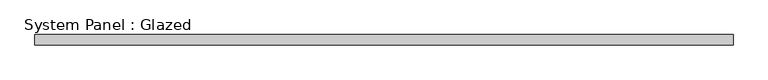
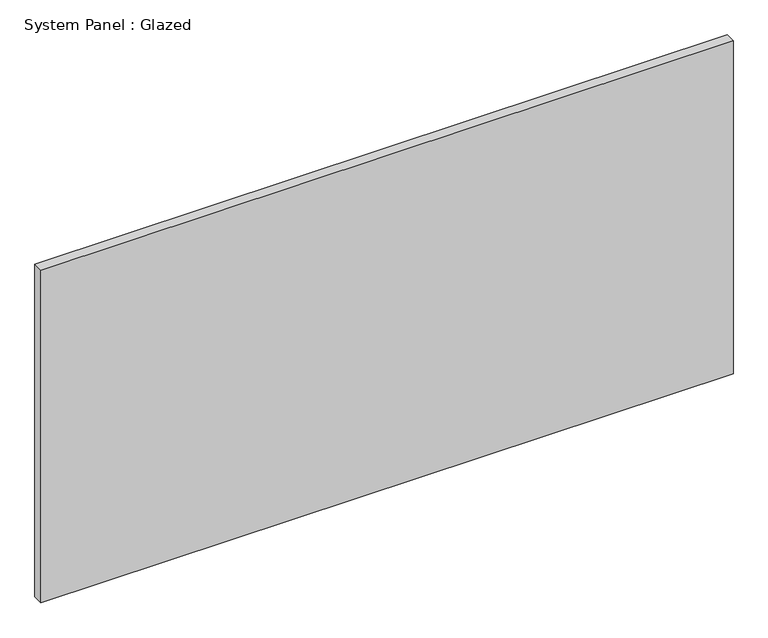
"""IFC4 building model written with IfcOpenShell, lengths in millimetres: plate geometry, System Panel : Glazed."""

import ifcopenshell
import ifcopenshell.guid

model = None  # the IFC model being written
_history = None  # IfcOwnerHistory: only IFC2X3 demands one
_inside = {}  # id of a spatial element -> (the spatial element, [elements in it])
_under = {}  # id of a project, library or spatial element -> (it, [spatial elements below it])
_declared = {}  # id of a project -> (the project, [libraries it declares])
_typed = {}  # id of a type object -> (the type object, [elements of that type])
_made_of = {}  # id of a material, layer set ... -> (it, [elements and type objects made of it])


def new_model(schema):
    """Start an empty IFC model of exactly this schema.

    Asked for "IFC4X3", IfcOpenShell would pick the latest addendum, in which some entities
    have other attributes; the version numbers below select the first issue.
    IFC2X3 requires an IfcOwnerHistory on every rooted entity: one is made here for all.
    """
    global model, _history
    if schema == "IFC4X3":
        model = ifcopenshell.file(schema_version=(4, 3, 0, 0))
    else:
        model = ifcopenshell.file(schema=schema)
    _inside.clear()
    _under.clear()
    _declared.clear()
    _typed.clear()
    _made_of.clear()
    _history = None
    if model.schema == "IFC2X3":
        org = make("IfcOrganization", Name="unknown")
        user = make(
            "IfcPersonAndOrganization",
            ThePerson=make("IfcPerson", FamilyName="unknown"),
            TheOrganization=org,
        )
        app = make(
            "IfcApplication",
            ApplicationDeveloper=org,
            Version="unknown",
            ApplicationFullName="unknown",
            ApplicationIdentifier="unknown",
        )
        _history = make(
            "IfcOwnerHistory",
            OwningUser=user,
            OwningApplication=app,
            ChangeAction="ADDED",
            CreationDate=0,
        )
    return model


def make(cls, **values):
    """One entity of the class cls with the attributes given. An attribute that is None is left unset."""
    return model.create_entity(
        cls, **{name: value for name, value in values.items() if value is not None}
    )


def rooted(cls, **values):
    """An entity with a GlobalId (a new one), such as an element, a storey or a relation."""
    return make(cls, GlobalId=ifcopenshell.guid.new(), OwnerHistory=_history, **values)


def si_unit(unit_type, name, prefix=None):
    """IfcSIUnit, for example si_unit("LENGTHUNIT", "METRE", prefix="MILLI")."""
    return make("IfcSIUnit", UnitType=unit_type, Prefix=prefix, Name=name)


def assignment(units):
    """IfcUnitAssignment: the units of a project."""
    return None if units is None else make("IfcUnitAssignment", Units=units)


def point(xyz):
    """IfcCartesianPoint."""
    return None if xyz is None else make("IfcCartesianPoint", Coordinates=xyz)


def direction(xyz):
    """IfcDirection."""
    return None if xyz is None else make("IfcDirection", DirectionRatios=xyz)


def frame(location, z_axis=None, x_axis=None):
    """IfcAxis2Placement3D, a coordinate frame: its origin and axes. An axis left out is left unset."""
    return make(
        "IfcAxis2Placement3D",
        Location=point(location),
        Axis=direction(z_axis),
        RefDirection=direction(x_axis),
    )


def origin():
    """The frame at (0, 0, 0) with its axes left unset."""
    return frame((0.0, 0.0, 0.0))


def origin_with_axes():
    """The frame at (0, 0, 0) with the z axis (0, 0, 1) and the x axis (1, 0, 0) written out."""
    return frame((0.0, 0.0, 0.0), z_axis=(0.0, 0.0, 1.0), x_axis=(1.0, 0.0, 0.0))


def place(relative_to, where):
    """IfcLocalPlacement: puts the frame where relative to a parent placement (None: the world)."""
    return make(
        "IfcLocalPlacement", PlacementRelTo=relative_to, RelativePlacement=where
    )


def context(
    kind, dimensions, precision=None, world=None, true_north=None, identifier=None
):
    """IfcGeometricRepresentationContext, for example the 3D "Model" context."""
    return make(
        "IfcGeometricRepresentationContext",
        ContextIdentifier=identifier,
        ContextType=kind,
        CoordinateSpaceDimension=dimensions,
        Precision=precision,
        WorldCoordinateSystem=world,
        TrueNorth=true_north,
    )


def project(units=None, contexts=None):
    """IfcProject with its units and contexts."""
    return rooted(
        "IfcProject",
        Name="project",
        RepresentationContexts=contexts,
        UnitsInContext=assignment(units),
    )


def spatial(cls, under=None, at=None, **own):
    """A site, building, storey or space (cls), placed at a placement, below another one or the project."""
    s = rooted(cls, ObjectPlacement=at, **own)
    if under is not None:
        _under.setdefault(under.id(), (under, []))[1].append(s)
    return s


def polyline(points):
    """IfcPolyline through the points."""
    return make("IfcPolyline", Points=[point(p) for p in points])


def outline(outer, holes=None, kind="AREA"):
    """IfcArbitraryClosedProfileDef: a profile drawn as a closed curve; with holes, ...WithVoids."""
    if holes is None:
        return make("IfcArbitraryClosedProfileDef", ProfileType=kind, OuterCurve=outer)
    return make(
        "IfcArbitraryProfileDefWithVoids",
        ProfileType=kind,
        OuterCurve=outer,
        InnerCurves=holes,
    )


def extrude(swept, where, along, depth):
    """IfcExtrudedAreaSolid: the profile swept, set in the frame where, extruded along a direction by depth."""
    return make(
        "IfcExtrudedAreaSolid",
        SweptArea=swept,
        Position=where,
        ExtrudedDirection=direction(along),
        Depth=depth,
    )


def shape(context_of_items, identifier, shape_type, items):
    """IfcShapeRepresentation: the items that make up one representation, for example the "Body"."""
    return make(
        "IfcShapeRepresentation",
        ContextOfItems=context_of_items,
        RepresentationIdentifier=identifier,
        RepresentationType=shape_type,
        Items=items,
    )


def source(mapping_origin, context_of_items, identifier, shape_type, items):
    """IfcRepresentationMap: a shape defined once, which mapped items show again and again."""
    return make(
        "IfcRepresentationMap",
        MappingOrigin=mapping_origin,
        MappedRepresentation=shape(context_of_items, identifier, shape_type, items),
    )


def transform(
    local_origin,
    x_axis=None,
    y_axis=None,
    z_axis=None,
    scale=None,
    scale2=None,
    scale3=None,
    uniform=True,
):
    """IfcCartesianTransformationOperator3D, or its non-uniform kind. x_axis, y_axis, z_axis: its Axis1, 2, 3."""
    if uniform:
        return make(
            "IfcCartesianTransformationOperator3D",
            Axis1=direction(x_axis),
            Axis2=direction(y_axis),
            LocalOrigin=point(local_origin),
            Scale=scale,
            Axis3=direction(z_axis),
        )
    return make(
        "IfcCartesianTransformationOperator3DnonUniform",
        Axis1=direction(x_axis),
        Axis2=direction(y_axis),
        LocalOrigin=point(local_origin),
        Scale=scale,
        Axis3=direction(z_axis),
        Scale2=scale2,
        Scale3=scale3,
    )


def mapped(mapping_source, mapping_target):
    """IfcMappedItem: shows the shape of a source again, moved by a transform."""
    return make(
        "IfcMappedItem", MappingSource=mapping_source, MappingTarget=mapping_target
    )


def made_of(thing, what):
    """Note that an element or type object is made of a material, layer set ...; save() writes the relation."""
    if what is not None:
        _made_of.setdefault(what.id(), (what, []))[1].append(thing)
    return thing


def element(
    cls,
    number,
    at=None,
    inside=None,
    cuts=None,
    type_object=None,
    material=None,
    context=None,
    identifier="Body",
    shape_type=None,
    held_by="IfcProductDefinitionShape",
    body=None,
    shapes=None,
    **own,
):
    """One element of the class cls, such as IfcWall. Its Tag is "e" and its number.

    at: its placement. inside: the storey or other place that contains it. cuts: it is an
    opening in that element (IfcRelVoidsElement). A single representation is given by context,
    identifier, shape_type and body (its items); several are given by shapes. held_by: the class
    of the entity that holds the representations. save() writes the other relations.
    """
    e = rooted(cls, Tag="e%d" % number, ObjectPlacement=at, **own)
    if body is not None:
        shapes = [shape(context, identifier, shape_type, body)]
    if shapes is not None:
        e.Representation = make(held_by, Representations=shapes)
    if inside is not None:
        _inside.setdefault(inside.id(), (inside, []))[1].append(e)
    if cuts is not None:
        rooted(
            "IfcRelVoidsElement", RelatingBuildingElement=cuts, RelatedOpeningElement=e
        )
    if type_object is not None:
        _typed.setdefault(type_object.id(), (type_object, []))[1].append(e)
    return made_of(e, material)


def aggregate(whole, parts):
    """IfcRelAggregates: a whole, such as a stair, and the parts it consists of."""
    return rooted("IfcRelAggregates", RelatingObject=whole, RelatedObjects=parts)


def save(model, path):
    """Write the relations noted so far, then the file.

    IfcRelAggregates (storeys below a building ...), IfcRelContainedInSpatialStructure (elements
    in a storey), IfcRelDefinesByType, IfcRelAssociatesMaterial and IfcRelDeclares: one each for
    every whole, place, type object, material and project.
    """
    for whole, parts in _under.values():
        aggregate(whole, parts)
    for where, things in _inside.values():
        rooted(
            "IfcRelContainedInSpatialStructure",
            RelatedElements=things,
            RelatingStructure=where,
        )
    for kind, things in _typed.values():
        rooted("IfcRelDefinesByType", RelatedObjects=things, RelatingType=kind)
    for what, things in _made_of.values():
        rooted("IfcRelAssociatesMaterial", RelatedObjects=things, RelatingMaterial=what)
    for by, libraries in _declared.values():
        rooted("IfcRelDeclares", RelatingContext=by, RelatedDefinitions=libraries)
    model.write(path)


def system_panel_glazed_069e6351(model_context):
    return source(origin(), model_context, "Body", "SweptSolid", [
        extrude(outline(polyline([(855.4684602, 19.05), (-855.4684602, 19.05), (-855.4684602, 44.45), (855.4684602, 44.45), (855.4684602, 19.05)])), origin_with_axes(), (0.0, 0.0, 1.0), 869.5973025),
    ])


if __name__ == "__main__":
    model = new_model("IFC4")
    model_context = context("Model", 3, world=origin())
    ifc_project = project(units=[si_unit("LENGTHUNIT", "METRE", prefix="MILLI")], contexts=[model_context])
    site = spatial("IfcSite", under=ifc_project)
    building = spatial("IfcBuilding", under=site)
    placement = place(None, origin())
    system_panel_glazed_shape = system_panel_glazed_069e6351(model_context)
    element("IfcPlate", 1, ObjectType="System Panel : Glazed", at=placement, inside=building, context=model_context, shape_type="MappedRepresentation", body=[
        mapped(system_panel_glazed_shape, transform((0.0, 0.0, 0.0), x_axis=(1.0, 0.0, 0.0), y_axis=(0.0, 1.0, 0.0), z_axis=(0.0, 0.0, 1.0))),
    ])
    save(model, "model.ifc")
